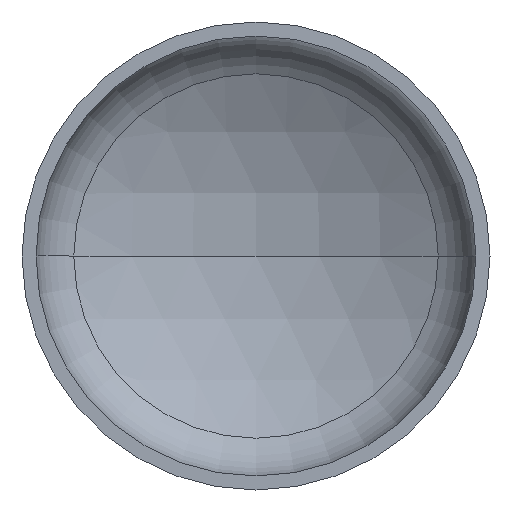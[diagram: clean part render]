
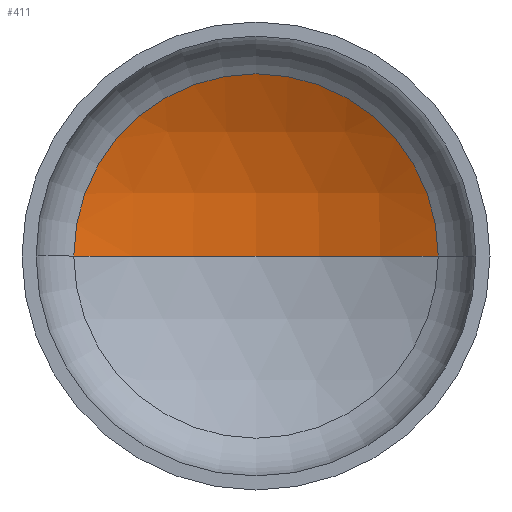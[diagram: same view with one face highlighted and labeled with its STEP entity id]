
A CAD part, front view. The second image highlights one B-rep face of the part: STEP entity #411.
In plain terms, the highlighted spherical face has radius 560 mm.
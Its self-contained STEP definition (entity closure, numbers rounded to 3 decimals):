
#9 = DIRECTION ( 'NONE',  ( 1., 0., 0. ) ) ;
#26 = VERTEX_POINT ( 'NONE', #234 ) ;
#29 = VERTEX_POINT ( 'NONE', #231 ) ;
#43 = AXIS2_PLACEMENT_3D ( 'NONE', #117, #208, #9 ) ;
#48 = AXIS2_PLACEMENT_3D ( 'NONE', #189, #192, #174 ) ;
#49 = AXIS2_PLACEMENT_3D ( 'NONE', #281, #205, #202 ) ;
#88 = EDGE_CURVE ( 'NONE', #26, #263, #304, .T. ) ;
#101 = EDGE_CURVE ( 'NONE', #29, #26, #159, .T. ) ;
#115 = CARTESIAN_POINT ( 'NONE',  ( -272.533, 166.095, 0. ) ) ;
#116 = EDGE_CURVE ( 'NONE', #29, #263, #144, .T. ) ;
#117 = CARTESIAN_POINT ( 'NONE',  ( 0., -323.114, 0. ) ) ;
#131 = EDGE_LOOP ( 'NONE', ( #350, #273, #251 ) ) ;
#144 = CIRCLE ( 'NONE', #43, 560. ) ;
#155 = DIRECTION ( 'NONE',  ( -1., 0., 0. ) ) ;
#159 = CIRCLE ( 'NONE', #48, 560. ) ;
#174 = DIRECTION ( 'NONE',  ( -1., 0., 0. ) ) ;
#189 = CARTESIAN_POINT ( 'NONE',  ( 0., -323.114, 0. ) ) ;
#192 = DIRECTION ( 'NONE',  ( 0., 0., -1. ) ) ;
#198 = AXIS2_PLACEMENT_3D ( 'NONE', #219, #400, #155 ) ;
#202 = DIRECTION ( 'NONE',  ( 1., 0., 0. ) ) ;
#205 = DIRECTION ( 'NONE',  ( 0., -1., 0. ) ) ;
#208 = DIRECTION ( 'NONE',  ( 0., 0., 1. ) ) ;
#219 = CARTESIAN_POINT ( 'NONE',  ( 0., -323.114, 0. ) ) ;
#231 = CARTESIAN_POINT ( 'NONE',  ( 0., 236.886, 0. ) ) ;
#232 = FACE_OUTER_BOUND ( 'NONE', #131, .T. ) ;
#234 = CARTESIAN_POINT ( 'NONE',  ( 272.533, 166.095, 0. ) ) ;
#251 = ORIENTED_EDGE ( 'NONE', *, *, #88, .T. ) ;
#263 = VERTEX_POINT ( 'NONE', #115 ) ;
#273 = ORIENTED_EDGE ( 'NONE', *, *, #101, .T. ) ;
#281 = CARTESIAN_POINT ( 'NONE',  ( 0., 166.095, 0. ) ) ;
#300 = SPHERICAL_SURFACE ( 'NONE', #198, 560. ) ;
#304 = CIRCLE ( 'NONE', #49, 272.533 ) ;
#350 = ORIENTED_EDGE ( 'NONE', *, *, #116, .F. ) ;
#400 = DIRECTION ( 'NONE',  ( 0., 0., -1. ) ) ;
#411 = ADVANCED_FACE ( 'NONE', ( #232 ), #300, .F. ) ;
